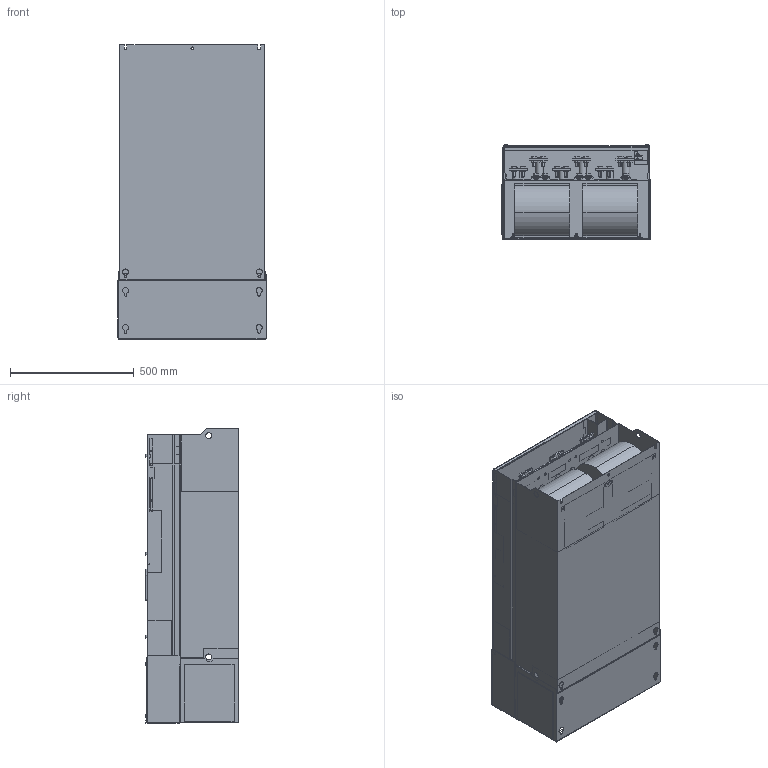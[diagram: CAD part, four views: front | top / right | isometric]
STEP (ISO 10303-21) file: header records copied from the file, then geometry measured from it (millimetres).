
FILE_DESCRIPTION((''),'2;1');
FILE_NAME('VFAS3_SA8_W_DCL_02_ASM_1_ASM','2021-08-12T15:39:20',('SESA57284'),('Schneider-Electric'),'CREO PARAMETRIC BY PTC INC, 2019471','CREO PARAMETRIC BY PTC INC, 2019471','');
FILE_SCHEMA(('AP242_MANAGED_MODEL_BASED_3D_ENGINEERING_MIM_LF { 1 0 10303 442 1 1 4 }'));
Products named in the file (23): PRT1006_1_1_1; PRT1007_1_1_1; PRT1008_1_1_1; PRT3001_1_1_1; PRT1011_1_1_1; PRT1013_1_1_1; PRT1014_1_1_1; PRT1015_1_1_1; PRT1016_1_1_1; PRT1017_1_1_1; PRT1018_1_1_1; PRT1019_1_1_1; PRT1020_1_1_1; PRT1021_1_1_1; PRT3002_1_1_1; PRT1022_1_1_1; PRT1023_1_1_1; PRT1024_1_1_1; PRT1025_1_1_1; PRT1009_1_1_1; PRT1010_1_1_1; PRT1012_1_1_1; VFAS3_SA8_W_DCL_02_ASM_1_ASM
Assembly tree (61 placements, depth 2):
  VFAS3_SA8_W_DCL_02_ASM_1_ASM
    PRT1006_1_1_1
    PRT1007_1_1_1  x2
    PRT1008_1_1_1
    PRT3001_1_1_1  x5
    PRT1011_1_1_1  x5
    PRT1013_1_1_1  x7
    PRT1014_1_1_1
    PRT1015_1_1_1  x2
    PRT1016_1_1_1  x2
    PRT1017_1_1_1  x2
    PRT1018_1_1_1
    PRT1019_1_1_1
    PRT1020_1_1_1
    PRT1021_1_1_1  x2
    PRT3002_1_1_1
    PRT1022_1_1_1
    PRT1023_1_1_1
    PRT1024_1_1_1
    PRT1025_1_1_1
    PRT1009_1_1_1  x5
    PRT1010_1_1_1  x12
    PRT1012_1_1_1  x6
Bounding box: 598 x 379.5 x 1190 mm (x, y, z)
Volume: 151834433.9 mm3; surface area: 7366289.7 mm2
Topology: 61 solids, 61 shells, 7149 faces, 20493 edges, 13606 vertices
Faces by surface type: plane 6394, cylinder 627, cone 98, torus 26, bspline 4
Entity records: 217800 total; most frequent: CARTESIAN_POINT 39268, ORIENTED_EDGE 37720, DIRECTION 32639, EDGE_CURVE 18860, VECTOR 17737, LINE 17737, VERTEX_POINT 12542, EDGE_LOOP 9106
